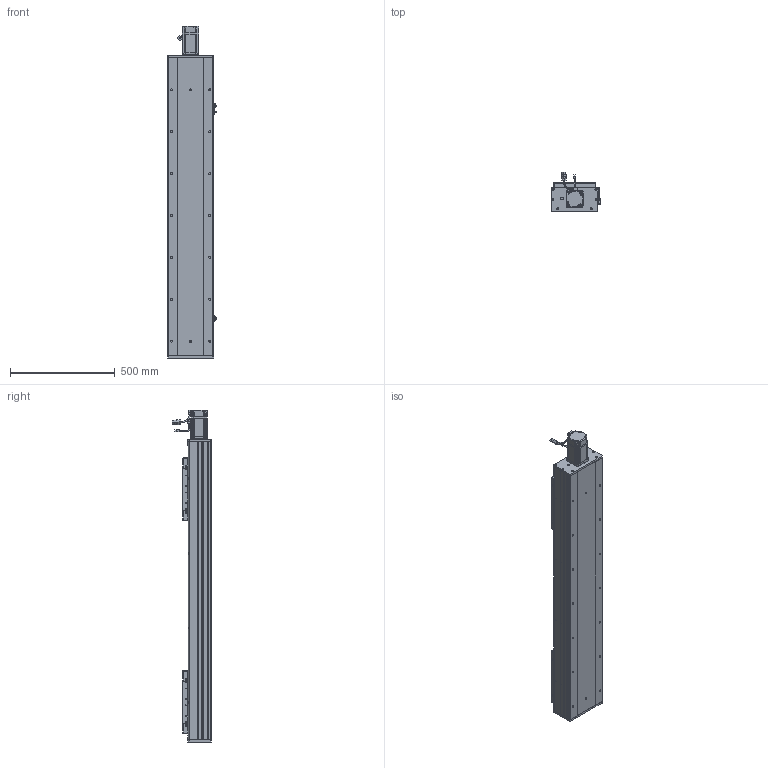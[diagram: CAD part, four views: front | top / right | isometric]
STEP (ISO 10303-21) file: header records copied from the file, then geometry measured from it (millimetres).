
FILE_DESCRIPTION (( 'STEP AP203' ), '1' );
FILE_NAME ('RY220F-L2525-300-MK.SLDASM_1000.step', '2022-07-04T01:03:46', ( '' ), ( '' ), 'SwSTEP 2.0', 'SolidWorks 2016', '' );
FILE_SCHEMA (( 'CONFIG_CONTROL_DESIGN' ));
Length unit declared in the file: millimetre
Products named in the file (15): RY220F-672覜茼んえ; RY220F-滅鳥奻裔; RY220F-奻裔啣-300_1000; RY220F-詩湍揤踡輸; 怢湛750W_ECMA-CX0807ES; RY220Fヶ裔啣; RY220F-祥凄詩湍-MK-300_1000; 覜茼ん672; RY220F綴裔啣; RY220电机支撑座FK20（PCD90M6）; RY220F臏賑釱25-32佪裝; 滅袉蝶18-20; RY220F菁釱MK-300_1000; RY220F-L2525-300-MK.SLDASM_1000; 滅袉蝶18-24
Assembly tree (23 placements, depth 2):
  RY220F-L2525-300-MK.SLDASM_1000
    RY220F菁釱MK-300_1000
    RY220电机支撑座FK20（PCD90M6）
    RY220F-奻裔啣-300_1000  x2
    怢湛750W_ECMA-CX0807ES
    RY220F臏賑釱25-32佪裝  x2
    RY220F-滅鳥奻裔  x2
    滅袉蝶18-20
    滅袉蝶18-24  x3
    RY220Fヶ裔啣
    RY220F綴裔啣
    RY220F-祥凄詩湍-MK-300_1000
    RY220F-詩湍揤踡輸  x2
    覜茼ん672  x3
    RY220F-672覜茼んえ  x2
Bounding box: 233.7 x 187.27 x 1584.3 mm (x, y, z)
Volume: 14845973.5 mm3; surface area: 3683406.3 mm2
Topology: 24 solids, 24 shells, 2758 faces, 7554 edges, 4676 vertices
Faces by surface type: cylinder 1246, plane 1030, cone 419, bspline 37, sphere 16, torus 10
Entity records: 68830 total; most frequent: CARTESIAN_POINT 18464, ORIENTED_EDGE 10202, DIRECTION 9930, EDGE_CURVE 5101, AXIS2_PLACEMENT_3D 3535, VERTEX_POINT 3316, LINE 2860, VECTOR 2860
